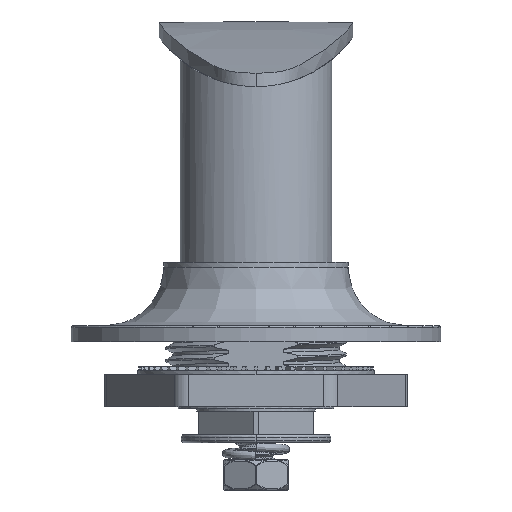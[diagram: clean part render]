
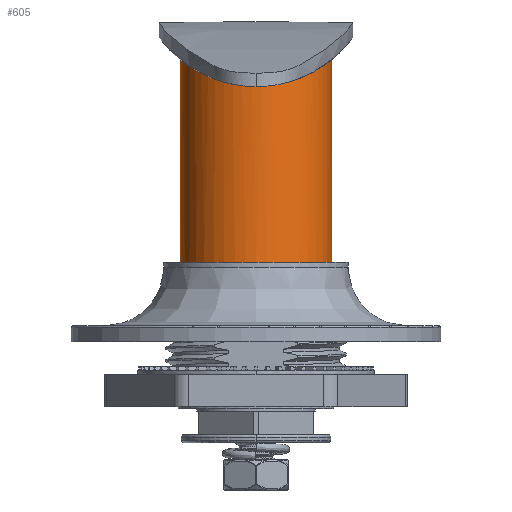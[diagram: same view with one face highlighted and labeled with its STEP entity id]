
A CAD part, front view. The second image highlights one B-rep face of the part: STEP entity #605.
In plain terms, the highlighted cylindrical face has radius 9.025 mm (diameter 18.05 mm), a partial arc.
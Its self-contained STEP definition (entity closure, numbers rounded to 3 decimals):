
#216=CYLINDRICAL_SURFACE('',#12622,9.025);
#605=ADVANCED_FACE('',(#1394),#216,.T.);
#1394=FACE_OUTER_BOUND('',#2202,.T.);
#2202=EDGE_LOOP('',(#4325,#4326,#4327,#4328));
#4325=ORIENTED_EDGE('',*,*,#7114,.F.);
#4326=ORIENTED_EDGE('',*,*,#7151,.F.);
#4327=ORIENTED_EDGE('',*,*,#7116,.F.);
#4328=ORIENTED_EDGE('',*,*,#7438,.F.);
#7114=EDGE_CURVE('',#10812,#10813,#8758,.T.);
#7116=EDGE_CURVE('',#10814,#10811,#8759,.T.);
#7151=EDGE_CURVE('',#10811,#10812,#8794,.T.);
#7438=EDGE_CURVE('',#10813,#10814,#10351,.T.);
#8758=B_SPLINE_CURVE_WITH_KNOTS('',1,(#31783,#31784),.UNSPECIFIED.,.F.,
 .F.,(2,2),(0.,24.158),.UNSPECIFIED.);
#8759=B_SPLINE_CURVE_WITH_KNOTS('',1,(#31790,#31791),.UNSPECIFIED.,.F.,
 .F.,(2,2),(0.,24.158),.UNSPECIFIED.);
#8794=B_SPLINE_CURVE_WITH_KNOTS('',3,(#32164,#32165,#32166,#32167,#32168,
#32169,#32170,#32171,#32172,#32173,#32174,#32175,#32176,#32177,#32178,#32179,
#32180,#32181,#32182,#32183,#32184,#32185,#32186,#32187,#32188,#32189,#32190,
#32191,#32192,#32193,#32194,#32195,#32196,#32197,#32198,#32199,#32200,#32201,
#32202,#32203,#32204,#32205,#32206,#32207,#32208,#32209),.UNSPECIFIED.,
 .F.,.F.,(4,2,2,2,2,2,2,2,2,2,2,2,2,2,2,2,2,2,2,2,2,2,4),(0.,1.829,
3.659,5.488,6.403,7.317,9.147,
10.061,10.976,11.89,12.805,14.634,
15.549,16.464,18.293,20.122,21.037,
21.952,23.781,25.61,26.525,27.44,
29.269),.UNSPECIFIED.);
#10351=(
BOUNDED_CURVE()
B_SPLINE_CURVE(2,(#33953,#33954,#33955,#33956,#33957),.UNSPECIFIED.,.F.,
 .F.)
B_SPLINE_CURVE_WITH_KNOTS((3,2,3),(-28.353,-14.176,0.),
 .UNSPECIFIED.)
CURVE()
GEOMETRIC_REPRESENTATION_ITEM()
RATIONAL_B_SPLINE_CURVE((1.,0.707,1.,0.707,1.))
REPRESENTATION_ITEM('')
);
#10811=VERTEX_POINT('',#31130);
#10812=VERTEX_POINT('',#31131);
#10813=VERTEX_POINT('',#31132);
#10814=VERTEX_POINT('',#31133);
#12622=AXIS2_PLACEMENT_3D('',#23642,#13209,$);
#13209=DIRECTION('',(0.,0.,-1.));
#23642=CARTESIAN_POINT('',(0.,0.,21.529));
#31130=CARTESIAN_POINT('',(-9.025,0.,33.608));
#31131=CARTESIAN_POINT('',(9.025,0.,33.608));
#31132=CARTESIAN_POINT('',(9.025,0.,9.45));
#31133=CARTESIAN_POINT('',(-9.025,0.,9.45));
#31783=CARTESIAN_POINT('',(9.025,0.,33.608));
#31784=CARTESIAN_POINT('',(9.025,0.,9.45));
#31790=CARTESIAN_POINT('',(-9.025,0.,9.45));
#31791=CARTESIAN_POINT('',(-9.025,0.,33.608));
#32164=CARTESIAN_POINT('',(-9.025,0.,33.608));
#32165=CARTESIAN_POINT('',(-9.025,-0.614,33.608));
#32166=CARTESIAN_POINT('',(-8.961,-1.231,33.555));
#32167=CARTESIAN_POINT('',(-8.718,-2.408,33.364));
#32168=CARTESIAN_POINT('',(-8.541,-2.975,33.227));
#32169=CARTESIAN_POINT('',(-8.08,-4.065,32.898));
#32170=CARTESIAN_POINT('',(-7.803,-4.571,32.711));
#32171=CARTESIAN_POINT('',(-7.322,-5.284,32.415));
#32172=CARTESIAN_POINT('',(-7.151,-5.513,32.315));
#32173=CARTESIAN_POINT('',(-6.786,-5.957,32.111));
#32174=CARTESIAN_POINT('',(-6.591,-6.172,32.008));
#32175=CARTESIAN_POINT('',(-5.981,-6.783,31.703));
#32176=CARTESIAN_POINT('',(-5.538,-7.15,31.506));
#32177=CARTESIAN_POINT('',(-4.815,-7.639,31.233));
#32178=CARTESIAN_POINT('',(-4.563,-7.792,31.145));
#32179=CARTESIAN_POINT('',(-4.045,-8.073,30.981));
#32180=CARTESIAN_POINT('',(-3.779,-8.201,30.906));
#32181=CARTESIAN_POINT('',(-3.234,-8.431,30.768));
#32182=CARTESIAN_POINT('',(-2.954,-8.533,30.705));
#32183=CARTESIAN_POINT('',(-2.38,-8.711,30.597));
#32184=CARTESIAN_POINT('',(-2.085,-8.786,30.55));
#32185=CARTESIAN_POINT('',(-1.194,-8.966,30.437));
#32186=CARTESIAN_POINT('',(-0.593,-9.026,30.399));
#32187=CARTESIAN_POINT('',(0.322,-9.024,30.4));
#32188=CARTESIAN_POINT('',(0.631,-9.008,30.411));
#32189=CARTESIAN_POINT('',(1.236,-8.945,30.45));
#32190=CARTESIAN_POINT('',(1.533,-8.899,30.479));
#32191=CARTESIAN_POINT('',(2.412,-8.717,30.592));
#32192=CARTESIAN_POINT('',(2.979,-8.54,30.702));
#32193=CARTESIAN_POINT('',(4.08,-8.072,30.983));
#32194=CARTESIAN_POINT('',(4.591,-7.791,31.147));
#32195=CARTESIAN_POINT('',(5.306,-7.306,31.419));
#32196=CARTESIAN_POINT('',(5.536,-7.133,31.513));
#32197=CARTESIAN_POINT('',(5.979,-6.766,31.708));
#32198=CARTESIAN_POINT('',(6.193,-6.571,31.809));
#32199=CARTESIAN_POINT('',(6.803,-5.958,32.114));
#32200=CARTESIAN_POINT('',(7.166,-5.516,32.319));
#32201=CARTESIAN_POINT('',(7.808,-4.562,32.714));
#32202=CARTESIAN_POINT('',(8.089,-4.046,32.904));
#32203=CARTESIAN_POINT('',(8.43,-3.236,33.148));
#32204=CARTESIAN_POINT('',(8.531,-2.959,33.223));
#32205=CARTESIAN_POINT('',(8.708,-2.391,33.356));
#32206=CARTESIAN_POINT('',(8.783,-2.097,33.415));
#32207=CARTESIAN_POINT('',(8.964,-1.212,33.557));
#32208=CARTESIAN_POINT('',(9.025,-0.611,33.608));
#32209=CARTESIAN_POINT('',(9.025,0.,33.608));
#33953=CARTESIAN_POINT('',(9.025,0.,9.45));
#33954=CARTESIAN_POINT('',(9.025,-9.025,9.45));
#33955=CARTESIAN_POINT('',(0.,-9.025,9.45));
#33956=CARTESIAN_POINT('',(-9.025,-9.025,9.45));
#33957=CARTESIAN_POINT('',(-9.025,0.,9.45));
